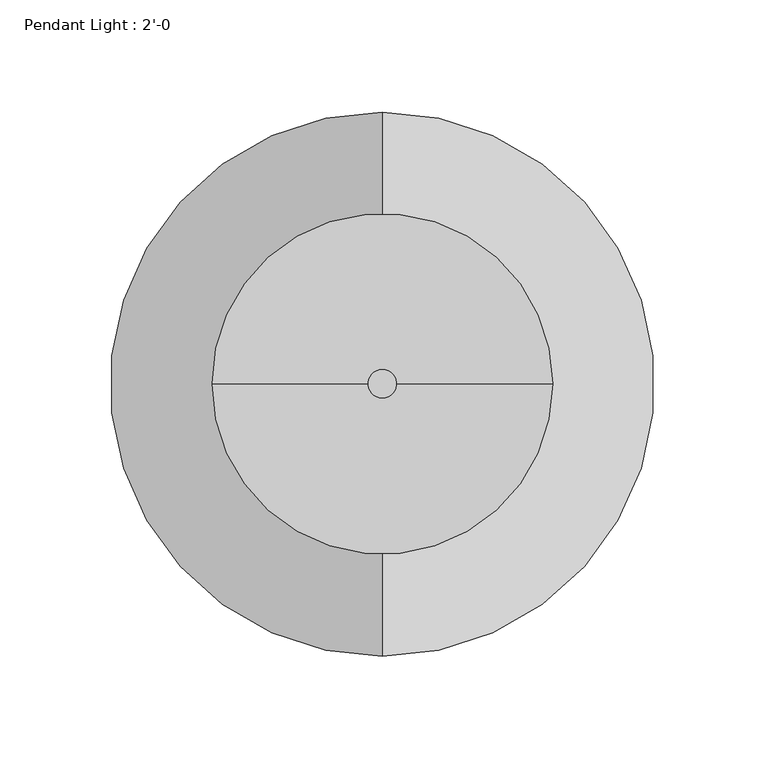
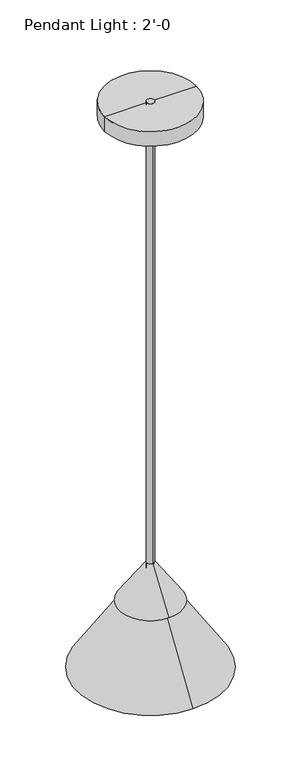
"""IFC4 building model written with IfcOpenShell, lengths in millimetres: light fixture geometry, Pendant Light : 2'-0."""

from ifc_helpers import new_model, si_unit, point, frame, origin, origin_2d, place, context, project, spatial, polyline, circle_curve, trimmed, segment, composite_curve, outline, extrude, source, transform, mapped, element, save
from ifc_brep_helpers import plane_surface, cylinder_surface, revolved_surface, advanced_brep


def pendant_light_2_0_4026ff0f(model_context):
    return source(origin(), model_context, "Body", "SolidModel", [
        advanced_brep(
        [(0.0, 51.8998655, 1564.8722345), (0.0, -51.8998655, 1564.8722345), (0.0, -6.6553372, 1631.9500062), (0.0, 6.6553372, 1631.9500062), (0.0, 0.0, 1564.8722345), (0.0, 0.0, 1631.9500062)],
        [
            (0, 1, circle_curve(frame((0.0, 0.0, 1564.8722345), z_axis=(0.0, 0.0, 1.0), x_axis=(0.0, -1.0, 0.0)), 51.8998655)),
            (1, 2),
            (2, 3, circle_curve(frame((0.0, 0.0, 1631.9500062), z_axis=(0.0, 0.0, -1.0), x_axis=(0.0, -1.0, 0.0)), 6.6553372)),
            (3, 0),
            (1, 0, circle_curve(frame((0.0, 0.0, 1564.8722345), z_axis=(0.0, 0.0, 1.0), x_axis=(0.0, -1.0, 0.0)), 51.8998655)),
            (3, 2, circle_curve(frame((0.0, 0.0, 1631.9500062), z_axis=(0.0, 0.0, -1.0), x_axis=(0.0, -1.0, 0.0)), 6.6553372)),
            (4, 1),
            (0, 4),
            (2, 5),
            (5, 3),
        ],
        [
            revolved_surface(polyline([(0.0, -6.6553372, 1631.9500062), (0.0, -51.8998655, 1564.8722345)]), (0.0, 0.0, 1554.8911375), (0.0, 0.0, -1.0)),
            plane_surface(frame((0.0, 0.0, 1564.8722345), z_axis=(0.0, 0.0, -1.0), x_axis=(0.0, -1.0, 0.0))),
            plane_surface(frame((0.0, 0.0, 1631.9500062), z_axis=(0.0, 0.0, 1.0), x_axis=(0.0, -1.0, 0.0))),
        ],
        [
            (0, [[1, 2, 3, 4]]),
            (0, [[5, -4, 6, -2]]),
            (1, [[7, -1, 8]]),
            (1, [[-8, -5, -7]]),
            (2, [[-3, 9, 10]]),
            (2, [[-6, -10, -9]]),
        ],
    ),
        advanced_brep(
        [(0.0, 121.8146741, 1447.8), (0.0, -121.8146741, 1447.8), (0.0, -6.35, 1625.6000062), (0.0, 6.35, 1625.6000062), (0.0, 109.1146741, 1447.8), (0.0, -109.1146741, 1447.8), (0.0, 4.8000669, 1614.7382677), (0.0, -4.8000669, 1614.7382677), (0.0, 0.0, 1614.7382677), (0.0, 0.0, 1625.6000062)],
        [
            (0, 1, circle_curve(frame((0.0, 0.0, 1447.8), z_axis=(0.0, 0.0, 1.0), x_axis=(0.0, -1.0, 0.0)), 121.8146741)),
            (1, 2),
            (2, 3, circle_curve(frame((0.0, 0.0, 1625.6000062), z_axis=(0.0, 0.0, -1.0), x_axis=(0.0, -1.0, 0.0)), 6.35)),
            (3, 0),
            (1, 0, circle_curve(frame((0.0, 0.0, 1447.8), z_axis=(0.0, 0.0, 1.0), x_axis=(0.0, -1.0, 0.0)), 121.8146741)),
            (3, 2, circle_curve(frame((0.0, 0.0, 1625.6000062), z_axis=(0.0, 0.0, -1.0), x_axis=(0.0, -1.0, 0.0)), 6.35)),
            (4, 5, circle_curve(frame((0.0, 0.0, 1447.8), z_axis=(0.0, 0.0, 1.0), x_axis=(0.0, -1.0, 0.0)), 109.1146741)),
            (5, 1),
            (0, 4),
            (5, 4, circle_curve(frame((0.0, 0.0, 1447.8), z_axis=(0.0, 0.0, 1.0), x_axis=(0.0, -1.0, 0.0)), 109.1146741)),
            (6, 7, circle_curve(frame((0.0, 0.0, 1614.7382677), z_axis=(0.0, 0.0, 1.0), x_axis=(0.0, -1.0, 0.0)), 4.8000669)),
            (7, 5),
            (4, 6),
            (7, 6, circle_curve(frame((0.0, 0.0, 1614.7382677), z_axis=(0.0, 0.0, 1.0), x_axis=(0.0, -1.0, 0.0)), 4.8000669)),
            (8, 7),
            (6, 8),
            (2, 9),
            (9, 3),
        ],
        [
            revolved_surface(polyline([(0.0, -6.35, 1625.6000062), (0.0, -121.8146741, 1447.8)]), (0.0, 0.0, 1535.5895864), (0.0, 0.0, -1.0)),
            plane_surface(frame((0.0, 0.0, 1447.8), z_axis=(0.0, 0.0, -1.0), x_axis=(0.0, -1.0, 0.0))),
            revolved_surface(polyline([(0.0, -109.1146741, 1447.8), (0.0, -4.8000669, 1614.7382677)]), (0.0, 0.0, 1535.5895864), (0.0, 0.0, -1.0)),
            plane_surface(frame((0.0, 0.0, 1614.7382677), z_axis=(0.0, 0.0, -1.0), x_axis=(0.0, -1.0, 0.0))),
            plane_surface(frame((0.0, 0.0, 1625.6000062), z_axis=(0.0, 0.0, 1.0), x_axis=(0.0, -1.0, 0.0))),
        ],
        [
            (0, [[1, 2, 3, 4]]),
            (0, [[5, -4, 6, -2]]),
            (1, [[7, 8, -1, 9]]),
            (1, [[10, -9, -5, -8]]),
            (2, [[11, 12, -7, 13]]),
            (2, [[14, -13, -10, -12]]),
            (3, [[15, -11, 16]]),
            (3, [[-16, -14, -15]]),
            (4, [[-3, 17, 18]]),
            (4, [[-6, -18, -17]]),
        ],
    ),
        extrude(outline(composite_curve([segment(trimmed(circle_curve(origin_2d(), 6.35), [point((0.0, 6.35))], [point((0.0, -6.35))], False, "CARTESIAN"), True, "CONTINUOUS"), segment(trimmed(circle_curve(origin_2d(), 6.35), [point((0.0, -6.35))], [point((0.0, 6.35))], False, "CARTESIAN"), True, "CONTINUOUS")], self_intersect=False)), frame((0.0, 0.0, 1524.0000062), z_axis=(0.0, 0.0, 1.0), x_axis=(1.0, 0.0, 0.0)), (0.0, 0.0, 1.0), 914.3999938),
        advanced_brep(
        [(76.2, 0.0, 2413.0), (-76.2, 0.0, 2413.0), (-76.2, 0.0, 2438.4), (76.2, 0.0, 2438.4), (0.0, 0.0, 2377.4673564), (0.0, 0.0, 2438.4)],
        [
            (0, 1, circle_curve(frame((0.0, 0.0, 2413.0), z_axis=(0.0, 0.0, 1.0), x_axis=(-1.0, 0.0, 0.0)), 76.2)),
            (1, 2),
            (2, 3, circle_curve(frame((0.0, 0.0, 2438.4), z_axis=(0.0, 0.0, -1.0), x_axis=(-1.0, 0.0, 0.0)), 76.2)),
            (3, 0),
            (1, 0, circle_curve(frame((0.0, 0.0, 2413.0), z_axis=(0.0, 0.0, 1.0), x_axis=(-1.0, 0.0, 0.0)), 76.2)),
            (3, 2, circle_curve(frame((0.0, 0.0, 2438.4), z_axis=(0.0, 0.0, -1.0), x_axis=(-1.0, 0.0, 0.0)), 76.2)),
            (4, 1),
            (0, 4),
            (2, 5),
            (5, 3),
        ],
        [
            cylinder_surface(frame((0.0, 0.0, 2514.6), z_axis=(0.0, 0.0, -1.0), x_axis=(-1.0, 0.0, 0.0)), 76.2),
            revolved_surface(polyline([(-76.2, 0.0, 2413.0), (0.0, 0.0, 2377.4673564)]), (0.0, 0.0, 2514.6), (0.0, 0.0, -1.0)),
            plane_surface(frame((0.0, 0.0, 2438.4), z_axis=(0.0, 0.0, 1.0), x_axis=(-1.0, 0.0, 0.0))),
        ],
        [
            (0, [[1, 2, 3, 4]]),
            (0, [[5, -4, 6, -2]]),
            (1, [[7, -1, 8]]),
            (1, [[-8, -5, -7]]),
            (2, [[-3, 9, 10]]),
            (2, [[-6, -10, -9]]),
        ],
    ),
    ])


if __name__ == "__main__":
    model = new_model("IFC4")
    model_context = context("Model", 3, world=origin())
    ifc_project = project(units=[si_unit("LENGTHUNIT", "METRE", prefix="MILLI")], contexts=[model_context])
    site = spatial("IfcSite", under=ifc_project)
    building = spatial("IfcBuilding", under=site)
    placement = place(None, origin())
    pendant_light_2_0_shape = pendant_light_2_0_4026ff0f(model_context)
    element("IfcLightFixture", 1, ObjectType="Pendant Light : 2'-0", at=placement, inside=building, context=model_context, shape_type="MappedRepresentation", body=[
        mapped(pendant_light_2_0_shape, transform((0.0, 0.0, 0.0), x_axis=(1.0, 0.0, 0.0), y_axis=(0.0, 1.0, 0.0), z_axis=(0.0, 0.0, 1.0))),
    ])
    save(model, "model.ifc")
